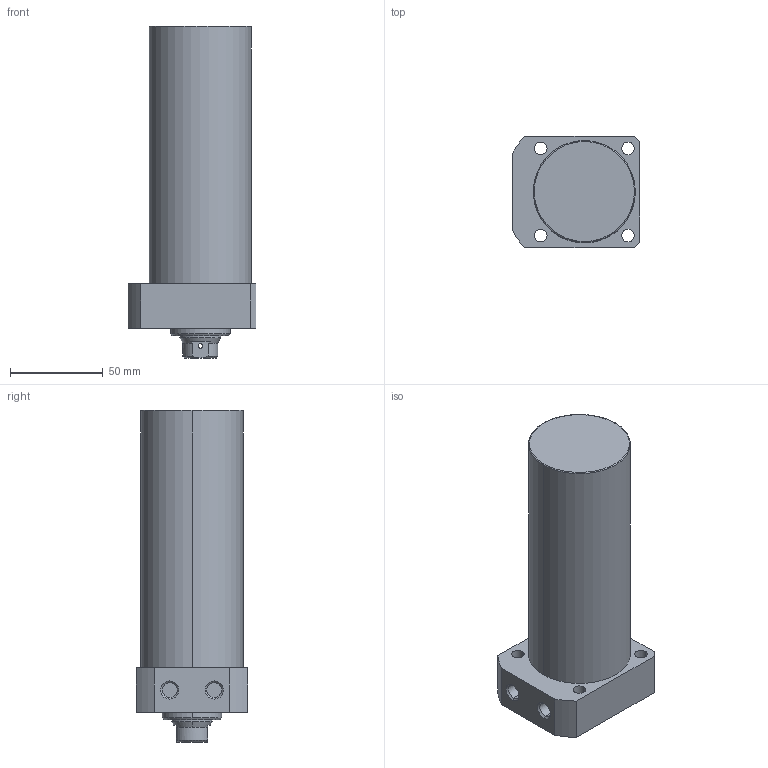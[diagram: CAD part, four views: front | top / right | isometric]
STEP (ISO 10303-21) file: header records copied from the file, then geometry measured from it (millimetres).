
FILE_DESCRIPTION (( 'STEP AP203' ), '1' );
FILE_NAME ('CLLR-055CB-110.STEP', '2019-12-17T11:55:15', ( '' ), ( '' ), 'SwSTEP 2.0', 'SolidWorks 2015', '' );
FILE_SCHEMA (( 'CONFIG_CONTROL_DESIGN' ));
Length unit declared in the file: millimetre
Products named in the file (1): CLLR-055CB-110
Bounding box: 69 x 60 x 179 mm (x, y, z)
Volume: 427825.6 mm3; surface area: 42353 mm2
Topology: 1 solids, 1 shells, 69 faces, 162 edges, 101 vertices
Faces by surface type: cylinder 33, plane 19, cone 15, torus 2
Entity records: 2175 total; most frequent: CARTESIAN_POINT 451, DIRECTION 368, ORIENTED_EDGE 320, EDGE_CURVE 160, AXIS2_PLACEMENT_3D 150, VERTEX_POINT 101, EDGE_LOOP 89, CIRCLE 80
